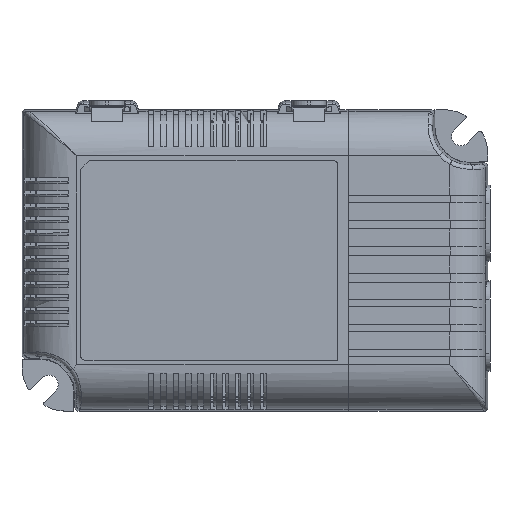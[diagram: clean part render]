
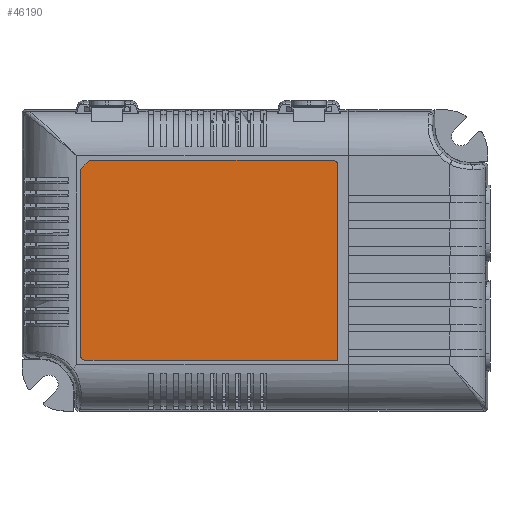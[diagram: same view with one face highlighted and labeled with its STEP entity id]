
A CAD part, top view. The second image highlights one B-rep face of the part: STEP entity #46190.
In plain terms, the highlighted planar face has unit normal (0, 0, 1).
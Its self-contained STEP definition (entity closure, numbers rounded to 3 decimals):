
#37460=CARTESIAN_POINT('',(38.008,37.85,17.1));
#37470=DIRECTION('',(0.,-1.,0.));
#37480=VECTOR('',#37470,57.5);
#37490=LINE('',#37460,#37480);
#37500=CARTESIAN_POINT('',(38.008,24.35,17.1));
#37510=VERTEX_POINT('',#37500);
#37520=CARTESIAN_POINT('',(38.008,-19.65,17.1));
#37530=VERTEX_POINT('',#37520);
#37540=EDGE_CURVE('',#37510,#37530,#37490,.T.);
#42830=CARTESIAN_POINT('',(37.008,24.35,17.1));
#42840=DIRECTION('',(0.,0.,1.));
#42850=DIRECTION('',(1.,0.,0.));
#42860=AXIS2_PLACEMENT_3D('',#42830,#42840,#42850);
#42870=CIRCLE('',#42860,1.);
#42880=CARTESIAN_POINT('',(37.008,25.35,17.1));
#42890=VERTEX_POINT('',#42880);
#42900=EDGE_CURVE('',#37510,#42890,#42870,.T.);
#45710=CARTESIAN_POINT('',(28.55,25.278,17.1)
);
#45720=DIRECTION('',(0.,0.,1.));
#45730=DIRECTION('',(1.,0.,0.));
#45740=AXIS2_PLACEMENT_3D('',#45710,#45720,#45730);
#45750=PLANE('',#45740);
#45760=ORIENTED_EDGE('',*,*,#42900,.T.);
#45770=ORIENTED_EDGE('',*,*,#37540,.F.);
#45780=CARTESIAN_POINT('',(-16.992,-19.65,17.1));
#45790=DIRECTION('',(1.,0.,0.));
#45800=VECTOR('',#45790,76.5);
#45810=LINE('',#45780,#45800);
#45820=CARTESIAN_POINT('',(-18.992,-19.65,17.1));
#45830=VERTEX_POINT('',#45820);
#45840=EDGE_CURVE('',#45830,#37530,#45810,.T.);
#45850=ORIENTED_EDGE('',*,*,#45840,.T.);
#45860=CARTESIAN_POINT('',(-18.992,-18.65,17.1));
#45870=DIRECTION('',(0.,0.,1.));
#45880=DIRECTION('',(-1.,0.,0.));
#45890=AXIS2_PLACEMENT_3D('',#45860,#45870,#45880);
#45900=CIRCLE('',#45890,1.);
#45910=CARTESIAN_POINT('',(-19.992,-18.65,17.1));
#45920=VERTEX_POINT('',#45910);
#45930=EDGE_CURVE('',#45920,#45830,#45900,.T.);
#45940=ORIENTED_EDGE('',*,*,#45930,.T.);
#45950=CARTESIAN_POINT('',(-19.992,36.85,17.1));
#45960=DIRECTION('',(0.,-1.,0.));
#45970=VECTOR('',#45960,55.5);
#45980=LINE('',#45950,#45970);
#45990=CARTESIAN_POINT('',(-19.992,23.35,17.1));
#46000=VERTEX_POINT('',#45990);
#46010=EDGE_CURVE('',#46000,#45920,#45980,.T.);
#46020=ORIENTED_EDGE('',*,*,#46010,.T.);
#46030=CARTESIAN_POINT('',(-17.992,25.35,17.1));
#46040=DIRECTION('',(-0.707,-0.707,0.));
#46050=VECTOR('',#46040,2.828);
#46060=LINE('',#46030,#46050);
#46070=CARTESIAN_POINT('',(-17.992,25.35,17.1));
#46080=VERTEX_POINT('',#46070);
#46090=EDGE_CURVE('',#46080,#46000,#46060,.T.);
#46100=ORIENTED_EDGE('',*,*,#46090,.T.);
#46110=CARTESIAN_POINT('',(58.508,25.35,17.1));
#46120=DIRECTION('',(-1.,0.,0.));
#46130=VECTOR('',#46120,74.5);
#46140=LINE('',#46110,#46130);
#46150=EDGE_CURVE('',#42890,#46080,#46140,.T.);
#46160=ORIENTED_EDGE('',*,*,#46150,.T.);
#46170=EDGE_LOOP('',(#46160,#46100,#46020,#45940,#45850,#45770,#45760));
#46180=FACE_OUTER_BOUND('',#46170,.T.);
#46190=ADVANCED_FACE('',(#46180),#45750,.T.);
